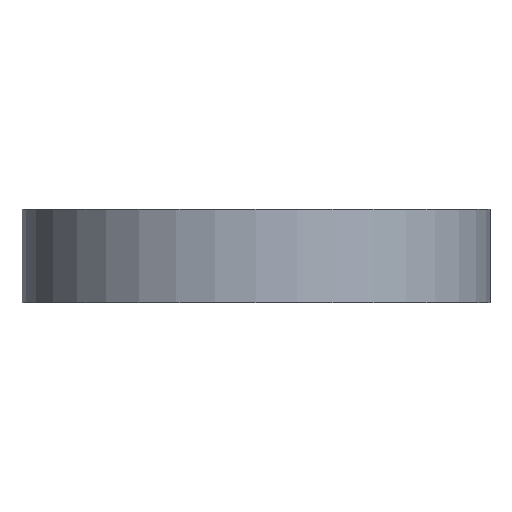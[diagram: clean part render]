
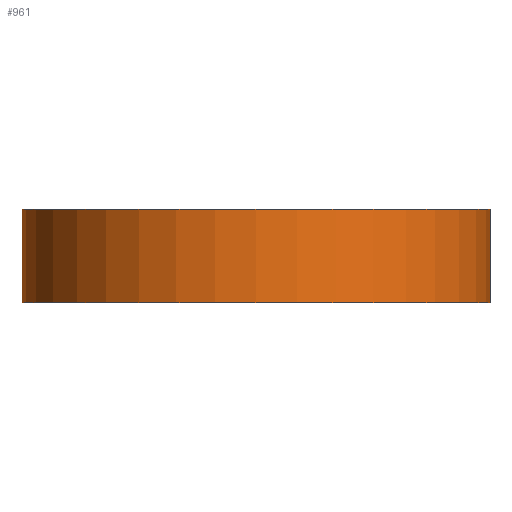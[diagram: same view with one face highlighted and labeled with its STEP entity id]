
A CAD part, front view. The second image highlights one B-rep face of the part: STEP entity #961.
In plain terms, the highlighted cylindrical face has radius 17.5 mm (diameter 35 mm), a partial arc.
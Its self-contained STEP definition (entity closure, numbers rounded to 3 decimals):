
#34 = ORIENTED_EDGE ( 'NONE', *, *, #484, .F. ) ;
#51 = CARTESIAN_POINT ( 'NONE',  ( 0., -10., 0. ) ) ;
#61 = LINE ( 'NONE', #411, #1348 ) ;
#136 = AXIS2_PLACEMENT_3D ( 'NONE', #51, #1517, #985 ) ;
#148 = LINE ( 'NONE', #285, #1176 ) ;
#180 = CARTESIAN_POINT ( 'NONE',  ( 17.5, -10., 0. ) ) ;
#186 = ORIENTED_EDGE ( 'NONE', *, *, #712, .T. ) ;
#221 = ORIENTED_EDGE ( 'NONE', *, *, #236, .F. ) ;
#236 = EDGE_CURVE ( 'NONE', #1213, #303, #148, .T. ) ;
#285 = CARTESIAN_POINT ( 'NONE',  ( 17.5, -10., 7. ) ) ;
#303 = VERTEX_POINT ( 'NONE', #180 ) ;
#384 = CARTESIAN_POINT ( 'NONE',  ( 17.5, -10., 7. ) ) ;
#399 = CIRCLE ( 'NONE', #136, 17.5 ) ;
#402 = DIRECTION ( 'NONE',  ( 0., 0., -1. ) ) ;
#411 = CARTESIAN_POINT ( 'NONE',  ( -17.5, -10., 7. ) ) ;
#430 = VERTEX_POINT ( 'NONE', #1144 ) ;
#484 = EDGE_CURVE ( 'NONE', #303, #1126, #399, .T. ) ;
#595 = AXIS2_PLACEMENT_3D ( 'NONE', #1594, #1466, #1452 ) ;
#652 = AXIS2_PLACEMENT_3D ( 'NONE', #1436, #1313, #744 ) ;
#699 = EDGE_LOOP ( 'NONE', ( #221, #878, #186, #34 ) ) ;
#712 = EDGE_CURVE ( 'NONE', #430, #1126, #61, .T. ) ;
#744 = DIRECTION ( 'NONE',  ( -1., 0., 0. ) ) ;
#878 = ORIENTED_EDGE ( 'NONE', *, *, #1705, .T. ) ;
#961 = ADVANCED_FACE ( 'NONE', ( #1426 ), #1006, .T. ) ;
#985 = DIRECTION ( 'NONE',  ( 1., 0., 0. ) ) ;
#1006 = CYLINDRICAL_SURFACE ( 'NONE', #652, 17.5 ) ;
#1126 = VERTEX_POINT ( 'NONE', #1516 ) ;
#1144 = CARTESIAN_POINT ( 'NONE',  ( -17.5, -10., 7. ) ) ;
#1176 = VECTOR ( 'NONE', #402, 1000. ) ;
#1213 = VERTEX_POINT ( 'NONE', #384 ) ;
#1313 = DIRECTION ( 'NONE',  ( 0., 0., -1. ) ) ;
#1343 = DIRECTION ( 'NONE',  ( 0., 0., -1. ) ) ;
#1348 = VECTOR ( 'NONE', #1343, 1000. ) ;
#1426 = FACE_OUTER_BOUND ( 'NONE', #699, .T. ) ;
#1436 = CARTESIAN_POINT ( 'NONE',  ( 0., -10., 7. ) ) ;
#1452 = DIRECTION ( 'NONE',  ( 1., 0., 0. ) ) ;
#1466 = DIRECTION ( 'NONE',  ( 0., 0., -1. ) ) ;
#1516 = CARTESIAN_POINT ( 'NONE',  ( -17.5, -10., 0. ) ) ;
#1517 = DIRECTION ( 'NONE',  ( 0., 0., -1. ) ) ;
#1594 = CARTESIAN_POINT ( 'NONE',  ( 0., -10., 7. ) ) ;
#1664 = CIRCLE ( 'NONE', #595, 17.5 ) ;
#1705 = EDGE_CURVE ( 'NONE', #1213, #430, #1664, .T. ) ;
